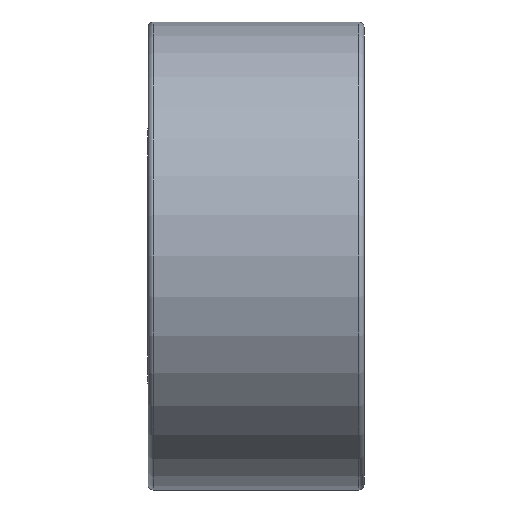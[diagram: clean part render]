
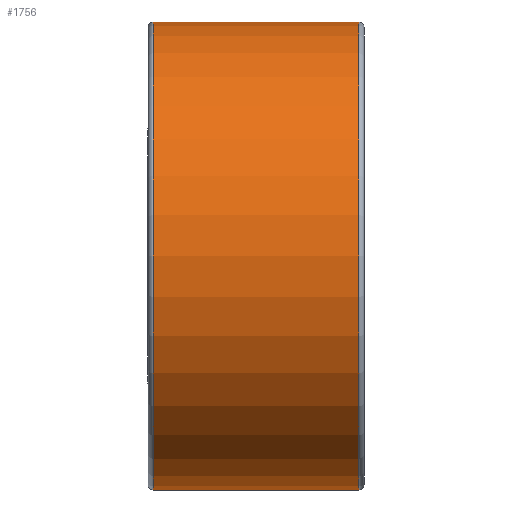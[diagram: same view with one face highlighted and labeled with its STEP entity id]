
A CAD part, front view. The second image highlights one B-rep face of the part: STEP entity #1756.
In plain terms, the highlighted cylindrical face has radius 13 mm (diameter 26 mm), a full revolution.
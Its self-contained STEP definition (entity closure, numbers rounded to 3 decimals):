
#225=LINE('',#3999,#259);
#259=VECTOR('',#2679,13.);
#289=CYLINDRICAL_SURFACE('',#2156,13.);
#352=FACE_OUTER_BOUND('',#459,.T.);
#459=EDGE_LOOP('',(#1507,#1508,#1509,#1510,#1511,#1512));
#650=CIRCLE('',#2152,13.);
#651=CIRCLE('',#2153,13.);
#654=CIRCLE('',#2157,13.);
#655=CIRCLE('',#2158,13.);
#843=VERTEX_POINT('',#3988);
#844=VERTEX_POINT('',#3989);
#846=VERTEX_POINT('',#3996);
#847=VERTEX_POINT('',#3997);
#1070=EDGE_CURVE('',#843,#844,#650,.T.);
#1071=EDGE_CURVE('',#844,#843,#651,.T.);
#1074=EDGE_CURVE('',#846,#847,#654,.T.);
#1075=EDGE_CURVE('',#846,#843,#225,.T.);
#1076=EDGE_CURVE('',#847,#846,#655,.T.);
#1507=ORIENTED_EDGE('',*,*,#1074,.F.);
#1508=ORIENTED_EDGE('',*,*,#1075,.T.);
#1509=ORIENTED_EDGE('',*,*,#1070,.T.);
#1510=ORIENTED_EDGE('',*,*,#1071,.T.);
#1511=ORIENTED_EDGE('',*,*,#1075,.F.);
#1512=ORIENTED_EDGE('',*,*,#1076,.F.);
#1756=ADVANCED_FACE('',(#352),#289,.T.);
#2152=AXIS2_PLACEMENT_3D('',#3990,#2667,#2668);
#2153=AXIS2_PLACEMENT_3D('',#3991,#2669,#2670);
#2156=AXIS2_PLACEMENT_3D('',#3995,#2675,#2676);
#2157=AXIS2_PLACEMENT_3D('',#3998,#2677,#2678);
#2158=AXIS2_PLACEMENT_3D('',#4000,#2680,#2681);
#2667=DIRECTION('center_axis',(1.,0.,0.));
#2668=DIRECTION('ref_axis',(0.,0.,-1.));
#2669=DIRECTION('center_axis',(1.,0.,0.));
#2670=DIRECTION('ref_axis',(0.,0.,-1.));
#2675=DIRECTION('center_axis',(1.,0.,0.));
#2676=DIRECTION('ref_axis',(0.,1.,0.));
#2677=DIRECTION('center_axis',(1.,0.,0.));
#2678=DIRECTION('ref_axis',(0.,0.,-1.));
#2679=DIRECTION('',(-1.,0.,0.));
#2680=DIRECTION('center_axis',(1.,0.,0.));
#2681=DIRECTION('ref_axis',(0.,0.,-1.));
#3988=CARTESIAN_POINT('',(-5.7,-13.,0.));
#3989=CARTESIAN_POINT('',(-5.7,0.,13.));
#3990=CARTESIAN_POINT('Origin',(-5.7,0.,0.));
#3991=CARTESIAN_POINT('Origin',(-5.7,0.,0.));
#3995=CARTESIAN_POINT('Origin',(0.,0.,0.));
#3996=CARTESIAN_POINT('',(5.7,-13.,0.));
#3997=CARTESIAN_POINT('',(5.7,0.,13.));
#3998=CARTESIAN_POINT('Origin',(5.7,0.,0.));
#3999=CARTESIAN_POINT('',(0.,-13.,0.));
#4000=CARTESIAN_POINT('Origin',(5.7,0.,0.));
